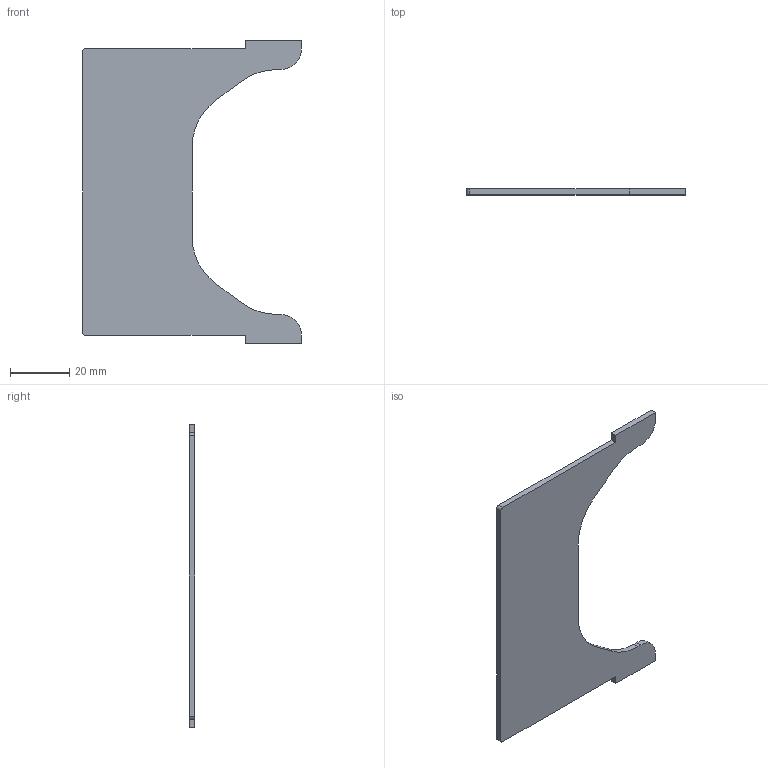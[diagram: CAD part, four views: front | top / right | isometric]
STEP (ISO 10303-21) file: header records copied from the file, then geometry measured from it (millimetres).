
FILE_DESCRIPTION(('Body'),'2;1');
FILE_NAME('Body','2026-09-06T18:28:41',('An Author'),('A Company'), 'Open CASCADE STEP processor 7.9','Dune 3D','Unknown');
FILE_SCHEMA(('AUTOMOTIVE_DESIGN { 1 0 10303 214 1 1 1 1 }'));
Length unit declared in the file: millimetre
Products named in the file (2): Earthborn Rangers - Tray Divider; Body
Assembly tree (1 placements, depth 2):
  Earthborn Rangers - Tray Divider
    Body
Bounding box: 74 x 2 x 102.8 mm (x, y, z)
Volume: 9204.9 mm3; surface area: 9994.8 mm2
Topology: 1 solids, 1 shells, 24 faces, 66 edges, 44 vertices
Faces by surface type: plane 16, cylinder 8
Entity records: 1669 total; most frequent: CARTESIAN_POINT 280, DIRECTION 264, LINE 166, VECTOR 166, ORIENTED_EDGE 132, PCURVE 132, DEFINITIONAL_REPRESENTATION 132, EDGE_CURVE 66
